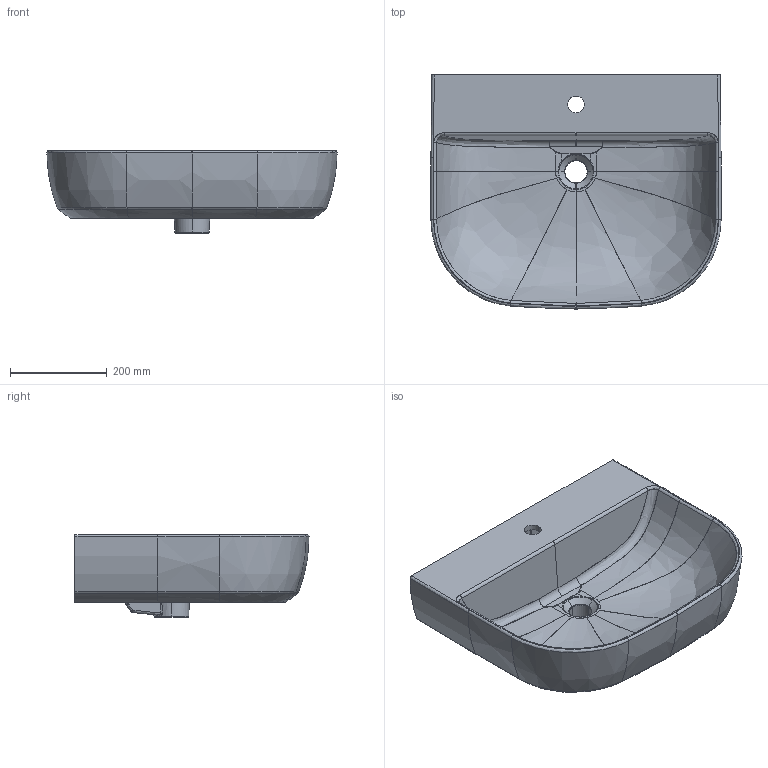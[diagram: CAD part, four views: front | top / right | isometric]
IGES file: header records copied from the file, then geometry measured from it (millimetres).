
Start section: START RECORD GO HERE.
Global section: file name: 5208_3D.igs; native system: DASSAULT SYSTEMES CATIA V5 R19 - www.3ds.com; preprocessor: CATIA Version 5 Release 19 SP 5 ; author: Luca; organization: DESKTOP-V7SON24; date: 20220517.110930; units: millimetre
Bounding box: 600.02 x 484.01 x 171.5 mm (x, y, z)
Surface area: 988813.1 mm2 (no closed solid volume)
Topology: 0 solids, 0 shells, 461 faces, 2150 edges, 2140 vertices
Faces by surface type: bspline 270, revolution 148, plane 35, extrusion 8
